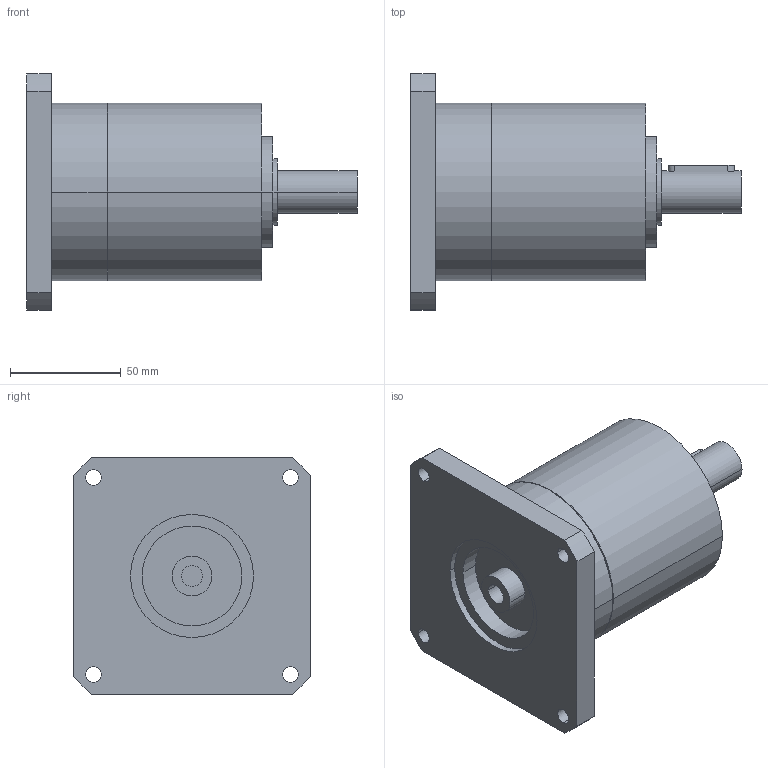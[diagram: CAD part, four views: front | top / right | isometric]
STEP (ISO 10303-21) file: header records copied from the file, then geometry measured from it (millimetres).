
FILE_DESCRIPTION(('CoCreate Modeling STEP Export'),'2;1');
FILE_NAME('GPR100_ig-3-4-5-6_19_B14_9.52_P02.stp','2014-08-26T10:09:33',(''),(''),'CoCreate Modeling STEP processor for AP214 (Solid Model)','CoCreate Modeling 16.00C 25-Feb-2009 (C) Parametric Technology GmbH','');
FILE_SCHEMA(('AUTOMOTIVE_DESIGN { 1 0 10303 214 1 1 1 1 }'));
Length unit declared in the file: millimetre
Products named in the file (2): GPR100_ig-3-4-5-6_19_B14_9.52_P02
Assembly tree (1 placements, depth 2):
  GPR100_ig-3-4-5-6_19_B14_9.52_P02
    GPR100_ig-3-4-5-6_19_B14_9.52_P02
Bounding box: 149 x 106.5 x 106.5 mm (x, y, z)
Volume: 599343.4 mm3; surface area: 59611.6 mm2
Topology: 1 solids, 1 shells, 70 faces, 187 edges, 131 vertices
Faces by surface type: cylinder 42, plane 22, cone 6
Entity records: 1934 total; most frequent: ORIENTED_EDGE 370, CARTESIAN_POINT 359, DIRECTION 262, EDGE_CURVE 185, VERTEX_POINT 131, AXIS2_PLACEMENT_3D 98, EDGE_LOOP 92, FACE_OUTER_BOUND 70
